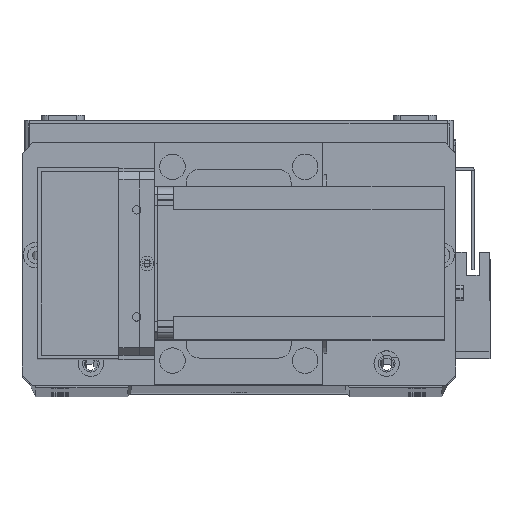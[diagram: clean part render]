
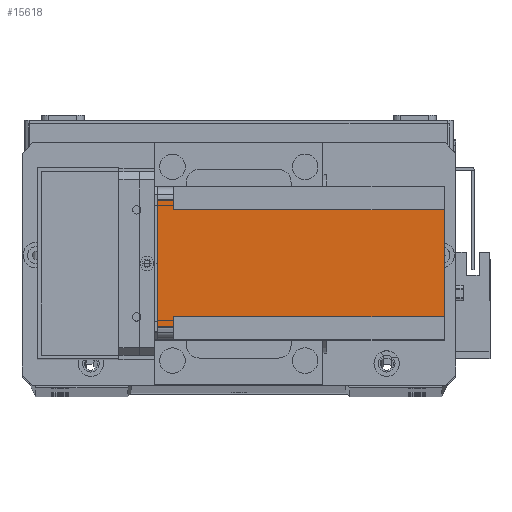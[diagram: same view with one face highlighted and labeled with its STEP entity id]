
A CAD part, top view. The second image highlights one B-rep face of the part: STEP entity #15618.
In plain terms, the highlighted planar face has unit normal (0, 0, 1) as drawn and (-1, 0, 0) by its records, which use the part's own axes.
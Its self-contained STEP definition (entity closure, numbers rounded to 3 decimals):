
#1806 = CARTESIAN_POINT ( 'NONE',  ( 0., 5., -112.5 ) ) ;
#3569 = LINE ( 'NONE', #10446, #17172 ) ;
#3853 = DIRECTION ( 'NONE',  ( 0., -1., 0. ) ) ;
#4286 = AXIS2_PLACEMENT_3D ( 'NONE', #7023, #9589, #27540 ) ;
#5027 = LINE ( 'NONE', #29013, #11040 ) ;
#5968 = VERTEX_POINT ( 'NONE', #8928 ) ;
#6224 = CARTESIAN_POINT ( 'NONE',  ( 0., 51., -112.5 ) ) ;
#6723 = VECTOR ( 'NONE', #26315, 1000. ) ;
#6994 = LINE ( 'NONE', #16707, #13012 ) ;
#7023 = CARTESIAN_POINT ( 'NONE',  ( 0., 0., -112.5 ) ) ;
#7372 = VECTOR ( 'NONE', #19841, 1000. ) ;
#7569 = CARTESIAN_POINT ( 'NONE',  ( 0., 55., 0. ) ) ;
#7758 = EDGE_CURVE ( 'NONE', #25622, #30877, #9367, .T. ) ;
#8377 = CARTESIAN_POINT ( 'NONE',  ( 0., 60., -6.5 ) ) ;
#8690 = ORIENTED_EDGE ( 'NONE', *, *, #33115, .F. ) ;
#8905 = LINE ( 'NONE', #6224, #21736 ) ;
#8928 = CARTESIAN_POINT ( 'NONE',  ( 0., 5., 0. ) ) ;
#9367 = LINE ( 'NONE', #12973, #15370 ) ;
#9589 = DIRECTION ( 'NONE',  ( -1., 0., 0. ) ) ;
#9869 = EDGE_CURVE ( 'NONE', #28040, #5968, #5027, .T. ) ;
#10395 = VECTOR ( 'NONE', #17146, 1000. ) ;
#10446 = CARTESIAN_POINT ( 'NONE',  ( 0., 55., -112.5 ) ) ;
#10529 = EDGE_CURVE ( 'NONE', #19044, #31185, #6994, .T. ) ;
#11040 = VECTOR ( 'NONE', #31597, 1000. ) ;
#11225 = ORIENTED_EDGE ( 'NONE', *, *, #14577, .T. ) ;
#11294 = CARTESIAN_POINT ( 'NONE',  ( 0., 9., -112.5 ) ) ;
#12458 = CARTESIAN_POINT ( 'NONE',  ( 0., 9., -6.5 ) ) ;
#12973 = CARTESIAN_POINT ( 'NONE',  ( 0., 0., -6.5 ) ) ;
#13012 = VECTOR ( 'NONE', #3853, 1000. ) ;
#13116 = FACE_OUTER_BOUND ( 'NONE', #14933, .T. ) ;
#14091 = CARTESIAN_POINT ( 'NONE',  ( 0., 51., -6.5 ) ) ;
#14369 = CARTESIAN_POINT ( 'NONE',  ( 0., 51., -112.5 ) ) ;
#14577 = EDGE_CURVE ( 'NONE', #28040, #32314, #3569, .T. ) ;
#14933 = EDGE_LOOP ( 'NONE', ( #32697, #31891, #16736, #11225, #8690, #29932, #20153, #27657 ) ) ;
#15370 = VECTOR ( 'NONE', #25741, 1000. ) ;
#15618 = ADVANCED_FACE ( 'NONE', ( #13116 ), #22378, .T. ) ;
#16707 = CARTESIAN_POINT ( 'NONE',  ( 0., 0., -112.5 ) ) ;
#16736 = ORIENTED_EDGE ( 'NONE', *, *, #9869, .F. ) ;
#17146 = DIRECTION ( 'NONE',  ( 0., 0., 1. ) ) ;
#17172 = VECTOR ( 'NONE', #25805, 1000. ) ;
#17187 = LINE ( 'NONE', #1806, #10395 ) ;
#17819 = VERTEX_POINT ( 'NONE', #14091 ) ;
#19044 = VERTEX_POINT ( 'NONE', #14369 ) ;
#19841 = DIRECTION ( 'NONE',  ( 0., 0., -1. ) ) ;
#20153 = ORIENTED_EDGE ( 'NONE', *, *, #10529, .T. ) ;
#20956 = CARTESIAN_POINT ( 'NONE',  ( 0., 55., -6.5 ) ) ;
#21736 = VECTOR ( 'NONE', #26735, 1000. ) ;
#22378 = PLANE ( 'NONE',  #4286 ) ;
#25590 = EDGE_CURVE ( 'NONE', #30877, #31185, #28641, .T. ) ;
#25622 = VERTEX_POINT ( 'NONE', #30307 ) ;
#25741 = DIRECTION ( 'NONE',  ( 0., 1., 0. ) ) ;
#25805 = DIRECTION ( 'NONE',  ( 0., 0., -1. ) ) ;
#26315 = DIRECTION ( 'NONE',  ( 0., 1., 0. ) ) ;
#26369 = LINE ( 'NONE', #8377, #6723 ) ;
#26557 = EDGE_CURVE ( 'NONE', #19044, #17819, #8905, .T. ) ;
#26735 = DIRECTION ( 'NONE',  ( 0., 0., 1. ) ) ;
#27540 = DIRECTION ( 'NONE',  ( 0., -1., 0. ) ) ;
#27606 = CARTESIAN_POINT ( 'NONE',  ( 0., 9., -112.5 ) ) ;
#27657 = ORIENTED_EDGE ( 'NONE', *, *, #25590, .F. ) ;
#28040 = VERTEX_POINT ( 'NONE', #7569 ) ;
#28439 = EDGE_CURVE ( 'NONE', #25622, #5968, #17187, .T. ) ;
#28641 = LINE ( 'NONE', #27606, #7372 ) ;
#29013 = CARTESIAN_POINT ( 'NONE',  ( 0., 0., 0. ) ) ;
#29932 = ORIENTED_EDGE ( 'NONE', *, *, #26557, .F. ) ;
#30307 = CARTESIAN_POINT ( 'NONE',  ( 0., 5., -6.5 ) ) ;
#30877 = VERTEX_POINT ( 'NONE', #12458 ) ;
#31185 = VERTEX_POINT ( 'NONE', #11294 ) ;
#31597 = DIRECTION ( 'NONE',  ( 0., -1., 0. ) ) ;
#31891 = ORIENTED_EDGE ( 'NONE', *, *, #28439, .T. ) ;
#32314 = VERTEX_POINT ( 'NONE', #20956 ) ;
#32697 = ORIENTED_EDGE ( 'NONE', *, *, #7758, .F. ) ;
#33115 = EDGE_CURVE ( 'NONE', #17819, #32314, #26369, .T. ) ;
